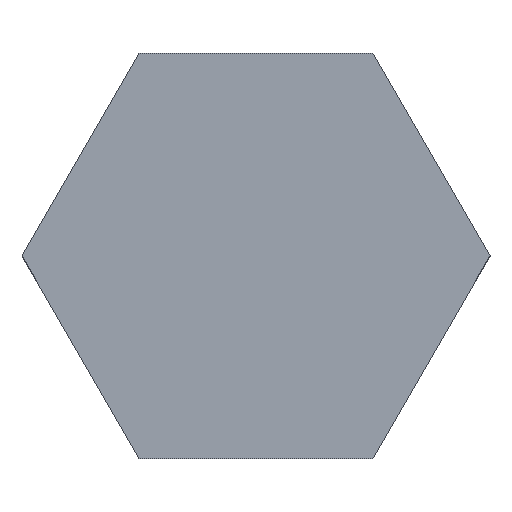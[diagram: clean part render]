
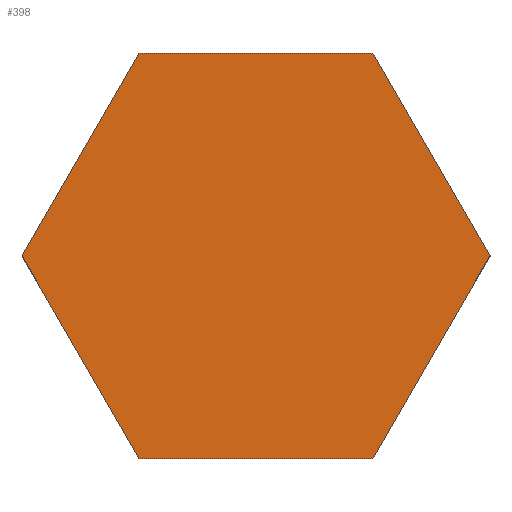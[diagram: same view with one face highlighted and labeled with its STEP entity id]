
A CAD part, top view. The second image highlights one B-rep face of the part: STEP entity #398.
In plain terms, the highlighted planar face has unit normal (0, 0, 1).
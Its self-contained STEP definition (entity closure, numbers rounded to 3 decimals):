
#24 = VERTEX_POINT('',#25);
#25 = CARTESIAN_POINT('',(15.,0.,80.));
#32 = PLANE('',#33);
#33 = AXIS2_PLACEMENT_3D('',#34,#35,#36);
#34 = CARTESIAN_POINT('',(15.,0.,74.));
#35 = DIRECTION('',(-0.866,-0.5,0.));
#36 = DIRECTION('',(-0.5,0.866,0.));
#44 = PLANE('',#45);
#45 = AXIS2_PLACEMENT_3D('',#46,#47,#48);
#46 = CARTESIAN_POINT('',(7.5,-12.99,74.));
#47 = DIRECTION('',(-0.866,0.5,0.));
#48 = DIRECTION('',(0.5,0.866,0.));
#56 = EDGE_CURVE('',#24,#57,#59,.T.);
#57 = VERTEX_POINT('',#58);
#58 = CARTESIAN_POINT('',(7.5,12.99,80.));
#59 = SURFACE_CURVE('',#60,(#64,#71),.PCURVE_S1.);
#60 = LINE('',#61,#62);
#61 = CARTESIAN_POINT('',(15.,0.,80.));
#62 = VECTOR('',#63,1.);
#63 = DIRECTION('',(-0.5,0.866,0.));
#64 = PCURVE('',#32,#65);
#65 = DEFINITIONAL_REPRESENTATION('',(#66),#70);
#66 = LINE('',#67,#68);
#67 = CARTESIAN_POINT('',(0.,-6.));
#68 = VECTOR('',#69,1.);
#69 = DIRECTION('',(1.,0.));
#70 = ( GEOMETRIC_REPRESENTATION_CONTEXT(2) 
PARAMETRIC_REPRESENTATION_CONTEXT() REPRESENTATION_CONTEXT('2D SPACE',''
  ) );
#71 = PCURVE('',#72,#77);
#72 = PLANE('',#73);
#73 = AXIS2_PLACEMENT_3D('',#74,#75,#76);
#74 = CARTESIAN_POINT('',(0.,0.,80.));
#75 = DIRECTION('',(0.,0.,1.));
#76 = DIRECTION('',(1.,0.,-0.));
#77 = DEFINITIONAL_REPRESENTATION('',(#78),#82);
#78 = LINE('',#79,#80);
#79 = CARTESIAN_POINT('',(15.,0.));
#80 = VECTOR('',#81,1.);
#81 = DIRECTION('',(-0.5,0.866));
#82 = ( GEOMETRIC_REPRESENTATION_CONTEXT(2) 
PARAMETRIC_REPRESENTATION_CONTEXT() REPRESENTATION_CONTEXT('2D SPACE',''
  ) );
#100 = PLANE('',#101);
#101 = AXIS2_PLACEMENT_3D('',#102,#103,#104);
#102 = CARTESIAN_POINT('',(7.5,12.99,74.));
#103 = DIRECTION('',(0.,-1.,0.));
#104 = DIRECTION('',(-1.,0.,0.));
#144 = VERTEX_POINT('',#145);
#145 = CARTESIAN_POINT('',(7.5,-12.99,80.));
#159 = PLANE('',#160);
#160 = AXIS2_PLACEMENT_3D('',#161,#162,#163);
#161 = CARTESIAN_POINT('',(-7.5,-12.99,74.));
#162 = DIRECTION('',(0.,1.,-0.));
#163 = DIRECTION('',(1.,0.,0.));
#171 = EDGE_CURVE('',#144,#24,#172,.T.);
#172 = SURFACE_CURVE('',#173,(#177,#184),.PCURVE_S1.);
#173 = LINE('',#174,#175);
#174 = CARTESIAN_POINT('',(7.5,-12.99,80.));
#175 = VECTOR('',#176,1.);
#176 = DIRECTION('',(0.5,0.866,0.));
#177 = PCURVE('',#44,#178);
#178 = DEFINITIONAL_REPRESENTATION('',(#179),#183);
#179 = LINE('',#180,#181);
#180 = CARTESIAN_POINT('',(0.,-6.));
#181 = VECTOR('',#182,1.);
#182 = DIRECTION('',(1.,0.));
#183 = ( GEOMETRIC_REPRESENTATION_CONTEXT(2) 
PARAMETRIC_REPRESENTATION_CONTEXT() REPRESENTATION_CONTEXT('2D SPACE',''
  ) );
#184 = PCURVE('',#72,#185);
#185 = DEFINITIONAL_REPRESENTATION('',(#186),#190);
#186 = LINE('',#187,#188);
#187 = CARTESIAN_POINT('',(7.5,-12.99));
#188 = VECTOR('',#189,1.);
#189 = DIRECTION('',(0.5,0.866));
#190 = ( GEOMETRIC_REPRESENTATION_CONTEXT(2) 
PARAMETRIC_REPRESENTATION_CONTEXT() REPRESENTATION_CONTEXT('2D SPACE',''
  ) );
#218 = EDGE_CURVE('',#57,#219,#221,.T.);
#219 = VERTEX_POINT('',#220);
#220 = CARTESIAN_POINT('',(-7.5,12.99,80.));
#221 = SURFACE_CURVE('',#222,(#226,#233),.PCURVE_S1.);
#222 = LINE('',#223,#224);
#223 = CARTESIAN_POINT('',(7.5,12.99,80.));
#224 = VECTOR('',#225,1.);
#225 = DIRECTION('',(-1.,0.,0.));
#226 = PCURVE('',#100,#227);
#227 = DEFINITIONAL_REPRESENTATION('',(#228),#232);
#228 = LINE('',#229,#230);
#229 = CARTESIAN_POINT('',(0.,-6.));
#230 = VECTOR('',#231,1.);
#231 = DIRECTION('',(1.,0.));
#232 = ( GEOMETRIC_REPRESENTATION_CONTEXT(2) 
PARAMETRIC_REPRESENTATION_CONTEXT() REPRESENTATION_CONTEXT('2D SPACE',''
  ) );
#233 = PCURVE('',#72,#234);
#234 = DEFINITIONAL_REPRESENTATION('',(#235),#239);
#235 = LINE('',#236,#237);
#236 = CARTESIAN_POINT('',(7.5,12.99));
#237 = VECTOR('',#238,1.);
#238 = DIRECTION('',(-1.,0.));
#239 = ( GEOMETRIC_REPRESENTATION_CONTEXT(2) 
PARAMETRIC_REPRESENTATION_CONTEXT() REPRESENTATION_CONTEXT('2D SPACE',''
  ) );
#257 = PLANE('',#258);
#258 = AXIS2_PLACEMENT_3D('',#259,#260,#261);
#259 = CARTESIAN_POINT('',(-7.5,12.99,74.));
#260 = DIRECTION('',(0.866,-0.5,0.));
#261 = DIRECTION('',(-0.5,-0.866,0.));
#334 = PLANE('',#335);
#335 = AXIS2_PLACEMENT_3D('',#336,#337,#338);
#336 = CARTESIAN_POINT('',(-15.,0.,74.));
#337 = DIRECTION('',(0.866,0.5,-0.));
#338 = DIRECTION('',(0.5,-0.866,0.));
#398 = ADVANCED_FACE('',(#399),#72,.T.);
#399 = FACE_BOUND('',#400,.T.);
#400 = EDGE_LOOP('',(#401,#402,#403,#426,#449,#470));
#401 = ORIENTED_EDGE('',*,*,#56,.T.);
#402 = ORIENTED_EDGE('',*,*,#218,.T.);
#403 = ORIENTED_EDGE('',*,*,#404,.T.);
#404 = EDGE_CURVE('',#219,#405,#407,.T.);
#405 = VERTEX_POINT('',#406);
#406 = CARTESIAN_POINT('',(-15.,0.,80.));
#407 = SURFACE_CURVE('',#408,(#412,#419),.PCURVE_S1.);
#408 = LINE('',#409,#410);
#409 = CARTESIAN_POINT('',(-7.5,12.99,80.));
#410 = VECTOR('',#411,1.);
#411 = DIRECTION('',(-0.5,-0.866,0.));
#412 = PCURVE('',#72,#413);
#413 = DEFINITIONAL_REPRESENTATION('',(#414),#418);
#414 = LINE('',#415,#416);
#415 = CARTESIAN_POINT('',(-7.5,12.99));
#416 = VECTOR('',#417,1.);
#417 = DIRECTION('',(-0.5,-0.866));
#418 = ( GEOMETRIC_REPRESENTATION_CONTEXT(2) 
PARAMETRIC_REPRESENTATION_CONTEXT() REPRESENTATION_CONTEXT('2D SPACE',''
  ) );
#419 = PCURVE('',#257,#420);
#420 = DEFINITIONAL_REPRESENTATION('',(#421),#425);
#421 = LINE('',#422,#423);
#422 = CARTESIAN_POINT('',(0.,-6.));
#423 = VECTOR('',#424,1.);
#424 = DIRECTION('',(1.,0.));
#425 = ( GEOMETRIC_REPRESENTATION_CONTEXT(2) 
PARAMETRIC_REPRESENTATION_CONTEXT() REPRESENTATION_CONTEXT('2D SPACE',''
  ) );
#426 = ORIENTED_EDGE('',*,*,#427,.T.);
#427 = EDGE_CURVE('',#405,#428,#430,.T.);
#428 = VERTEX_POINT('',#429);
#429 = CARTESIAN_POINT('',(-7.5,-12.99,80.));
#430 = SURFACE_CURVE('',#431,(#435,#442),.PCURVE_S1.);
#431 = LINE('',#432,#433);
#432 = CARTESIAN_POINT('',(-15.,0.,80.));
#433 = VECTOR('',#434,1.);
#434 = DIRECTION('',(0.5,-0.866,0.));
#435 = PCURVE('',#72,#436);
#436 = DEFINITIONAL_REPRESENTATION('',(#437),#441);
#437 = LINE('',#438,#439);
#438 = CARTESIAN_POINT('',(-15.,0.));
#439 = VECTOR('',#440,1.);
#440 = DIRECTION('',(0.5,-0.866));
#441 = ( GEOMETRIC_REPRESENTATION_CONTEXT(2) 
PARAMETRIC_REPRESENTATION_CONTEXT() REPRESENTATION_CONTEXT('2D SPACE',''
  ) );
#442 = PCURVE('',#334,#443);
#443 = DEFINITIONAL_REPRESENTATION('',(#444),#448);
#444 = LINE('',#445,#446);
#445 = CARTESIAN_POINT('',(0.,-6.));
#446 = VECTOR('',#447,1.);
#447 = DIRECTION('',(1.,0.));
#448 = ( GEOMETRIC_REPRESENTATION_CONTEXT(2) 
PARAMETRIC_REPRESENTATION_CONTEXT() REPRESENTATION_CONTEXT('2D SPACE',''
  ) );
#449 = ORIENTED_EDGE('',*,*,#450,.T.);
#450 = EDGE_CURVE('',#428,#144,#451,.T.);
#451 = SURFACE_CURVE('',#452,(#456,#463),.PCURVE_S1.);
#452 = LINE('',#453,#454);
#453 = CARTESIAN_POINT('',(-7.5,-12.99,80.));
#454 = VECTOR('',#455,1.);
#455 = DIRECTION('',(1.,0.,0.));
#456 = PCURVE('',#72,#457);
#457 = DEFINITIONAL_REPRESENTATION('',(#458),#462);
#458 = LINE('',#459,#460);
#459 = CARTESIAN_POINT('',(-7.5,-12.99));
#460 = VECTOR('',#461,1.);
#461 = DIRECTION('',(1.,0.));
#462 = ( GEOMETRIC_REPRESENTATION_CONTEXT(2) 
PARAMETRIC_REPRESENTATION_CONTEXT() REPRESENTATION_CONTEXT('2D SPACE',''
  ) );
#463 = PCURVE('',#159,#464);
#464 = DEFINITIONAL_REPRESENTATION('',(#465),#469);
#465 = LINE('',#466,#467);
#466 = CARTESIAN_POINT('',(0.,-6.));
#467 = VECTOR('',#468,1.);
#468 = DIRECTION('',(1.,0.));
#469 = ( GEOMETRIC_REPRESENTATION_CONTEXT(2) 
PARAMETRIC_REPRESENTATION_CONTEXT() REPRESENTATION_CONTEXT('2D SPACE',''
  ) );
#470 = ORIENTED_EDGE('',*,*,#171,.T.);
